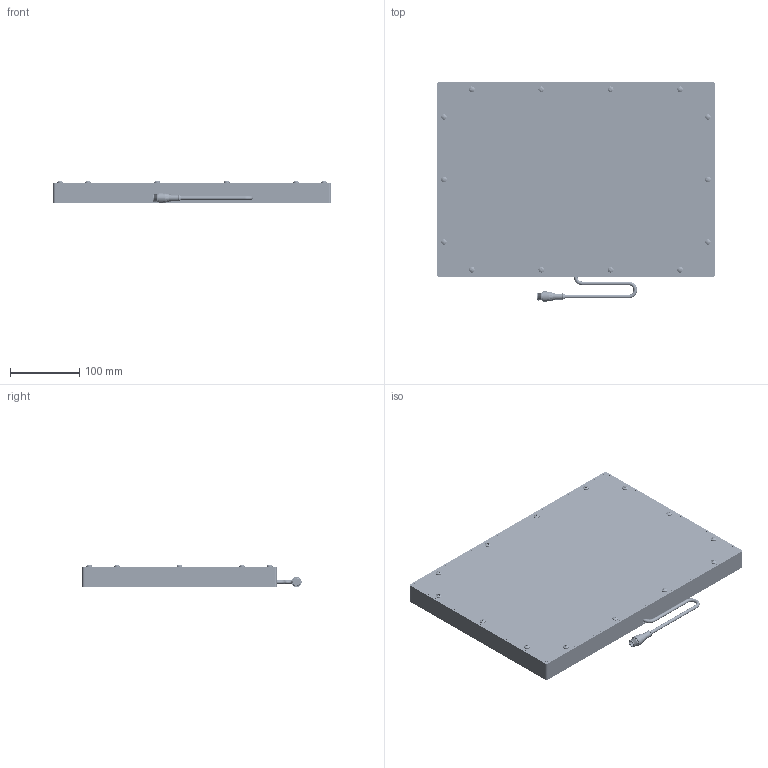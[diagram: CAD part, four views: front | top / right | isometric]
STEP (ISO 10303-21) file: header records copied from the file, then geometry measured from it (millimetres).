
FILE_DESCRIPTION (( 'STEP AP214' ), '1' );
FILE_NAME ('BL240360.STEP', '2026-06-17T02:04:43', ( '' ), ( '' ), 'SwSTEP 2.0', 'SolidWorks 2025', '' );
FILE_SCHEMA (( 'AUTOMOTIVE_DESIGN' ));
Length unit declared in the file: millimetre
Products named in the file (12): 8-32 x 0.5 FHCS (92210A194)_92210A194; Backplate Xmm x Xmm_240x360; Hex Standoff .75 x 8-32; WD-Xmm x Xmm_240x360; BL240360; M12 Connector 4,5 and 8 pin_RS4.5T; 8-32 x .375 Nylon Screw_.375" 94611A192; SC Pigtail Complete 18_5pin; 120 to 480 x 25mm rails_360mm no CG; 120 to 480 x 25mm rails_360mm; MC Pigtail 24_90 then 180 short lead out; 120 to 480 x 25mm rails_240mm no CG
Assembly tree (51 placements, depth 3):
  BL240360
    Backplate Xmm x Xmm_240x360
    120 to 480 x 25mm rails_360mm
    120 to 480 x 25mm rails_240mm no CG  x2
    120 to 480 x 25mm rails_360mm no CG
    WD-Xmm x Xmm_240x360
    SC Pigtail Complete 18_5pin
      MC Pigtail 24_90 then 180 short lead out
      M12 Connector 4,5 and 8 pin_RS4.5T
    Hex Standoff .75 x 8-32  x14
    8-32 x 0.5 FHCS (92210A194)_92210A194  x14
    8-32 x .375 Nylon Screw_.375" 94611A192  x14
Bounding box: 400 x 315.91 x 31.93 mm (x, y, z)
Volume: 1282926.8 mm3; surface area: 606325.5 mm2
Topology: 50 solids, 50 shells, 1456 faces, 3557 edges, 2259 vertices
Faces by surface type: plane 556, bspline 364, cylinder 247, cone 243, torus 27, sphere 19
Full cylindrical faces by diameter (mm): 0.762 x5, 1 x1, 3.454 x14, 4.2 x4, 4.496 x42, 5.207 x3, 6.35 x4, 6.858 x14, 8.128 x14, 8.382 x1, 8.636 x1, 9.119 x14, 10.16 x1, 10.541 x1, 11.938 x1, 13.716 x2, 14.732 x1
Entity records: 14832 total; most frequent: CARTESIAN_POINT 5571, DIRECTION 1713, ORIENTED_EDGE 1404, AXIS2_PLACEMENT_3D 714, EDGE_CURVE 702, EDGE_LOOP 599, VERTEX_POINT 527, FACE_OUTER_BOUND 440
